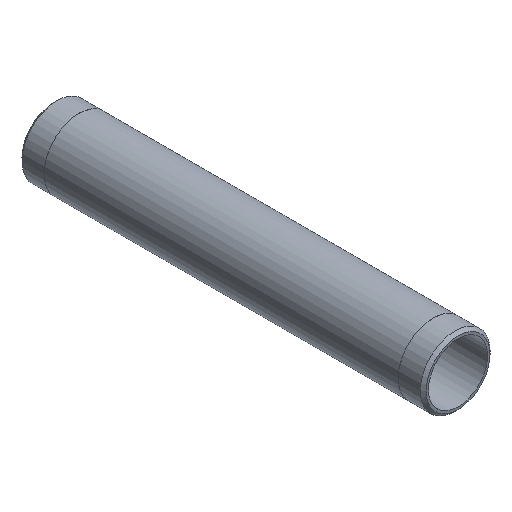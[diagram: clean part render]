
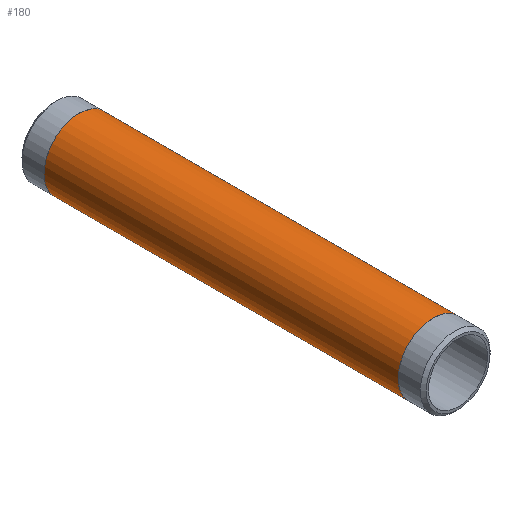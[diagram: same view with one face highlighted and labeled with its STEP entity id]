
A CAD part, isometric view. The second image highlights one B-rep face of the part: STEP entity #180.
In plain terms, the highlighted cylindrical face has radius 24.13 mm (diameter 48.26 mm), a full revolution.
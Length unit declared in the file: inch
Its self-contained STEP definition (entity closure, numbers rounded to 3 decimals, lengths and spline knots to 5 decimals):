
#25=CYLINDRICAL_SURFACE('',#220,0.95);
#34=FACE_OUTER_BOUND('',#47,.T.);
#47=EDGE_LOOP('',(#155,#156,#157,#158,#159,#160));
#55=LINE('',#338,#61);
#61=VECTOR('',#283,0.95);
#77=CIRCLE('',#218,0.95);
#78=CIRCLE('',#219,0.95);
#79=CIRCLE('',#221,0.95);
#80=CIRCLE('',#222,0.95);
#95=VERTEX_POINT('',#329);
#96=VERTEX_POINT('',#330);
#97=VERTEX_POINT('',#334);
#98=VERTEX_POINT('',#335);
#117=EDGE_CURVE('',#95,#96,#77,.T.);
#118=EDGE_CURVE('',#96,#95,#78,.T.);
#119=EDGE_CURVE('',#97,#98,#79,.T.);
#120=EDGE_CURVE('',#98,#97,#80,.T.);
#121=EDGE_CURVE('',#98,#96,#55,.T.);
#155=ORIENTED_EDGE('',*,*,#119,.F.);
#156=ORIENTED_EDGE('',*,*,#120,.F.);
#157=ORIENTED_EDGE('',*,*,#121,.T.);
#158=ORIENTED_EDGE('',*,*,#118,.T.);
#159=ORIENTED_EDGE('',*,*,#117,.T.);
#160=ORIENTED_EDGE('',*,*,#121,.F.);
#180=ADVANCED_FACE('',(#34),#25,.T.);
#218=AXIS2_PLACEMENT_3D('',#331,#273,#274);
#219=AXIS2_PLACEMENT_3D('',#332,#275,#276);
#220=AXIS2_PLACEMENT_3D('',#333,#277,#278);
#221=AXIS2_PLACEMENT_3D('',#336,#279,#280);
#222=AXIS2_PLACEMENT_3D('',#337,#281,#282);
#273=DIRECTION('center_axis',(0.,-1.,0.));
#274=DIRECTION('ref_axis',(1.,0.,0.));
#275=DIRECTION('center_axis',(0.,-1.,0.));
#276=DIRECTION('ref_axis',(1.,0.,0.));
#277=DIRECTION('center_axis',(0.,-1.,0.));
#278=DIRECTION('ref_axis',(0.,0.,-1.));
#279=DIRECTION('center_axis',(0.,-1.,0.));
#280=DIRECTION('ref_axis',(1.,0.,0.));
#281=DIRECTION('center_axis',(0.,-1.,0.));
#282=DIRECTION('ref_axis',(1.,0.,0.));
#283=DIRECTION('',(0.,1.,0.));
#329=CARTESIAN_POINT('',(0.,10.319,-0.95));
#330=CARTESIAN_POINT('',(0.,10.319,0.95));
#331=CARTESIAN_POINT('Origin',(0.,10.319,0.));
#332=CARTESIAN_POINT('Origin',(0.,10.319,0.));
#333=CARTESIAN_POINT('Origin',(0.,5.5,0.));
#334=CARTESIAN_POINT('',(0.,0.681,-0.95));
#335=CARTESIAN_POINT('',(0.,0.681,0.95));
#336=CARTESIAN_POINT('Origin',(0.,0.681,0.));
#337=CARTESIAN_POINT('Origin',(0.,0.681,0.));
#338=CARTESIAN_POINT('',(0.,5.5,0.95));
